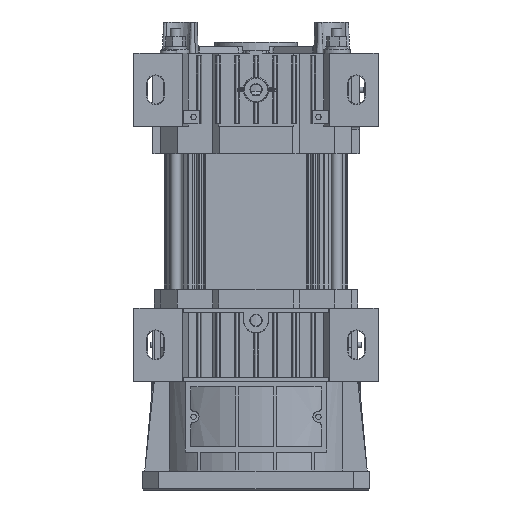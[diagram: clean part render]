
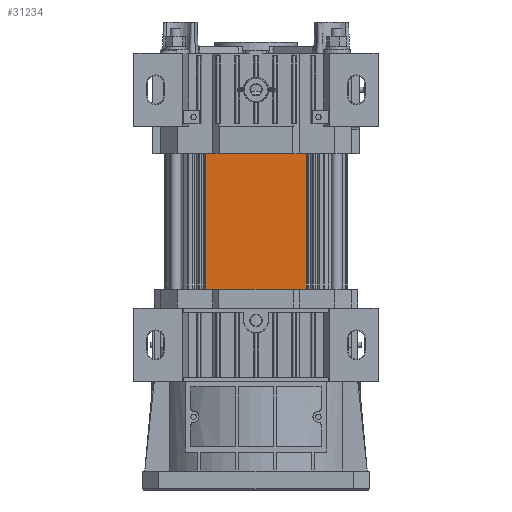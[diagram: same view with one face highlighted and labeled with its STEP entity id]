
A CAD part, front view. The second image highlights one B-rep face of the part: STEP entity #31234.
In plain terms, the highlighted planar face has unit normal (0, -1, 0).
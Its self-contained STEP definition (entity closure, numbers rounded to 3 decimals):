
#3448=LINE('',#53690,#6360);
#3684=LINE('',#54433,#6596);
#3685=LINE('',#54436,#6597);
#3686=LINE('',#54437,#6598);
#6360=VECTOR('',#42540,10.);
#6596=VECTOR('',#43294,10.);
#6597=VECTOR('',#43299,10.);
#6598=VECTOR('',#43300,10.);
#7603=PLANE('',#34358);
#9453=FACE_OUTER_BOUND('',#11312,.T.);
#11312=EDGE_LOOP('',(#28886,#28887,#28888,#28889));
#15380=VERTEX_POINT('',#53683);
#15383=VERTEX_POINT('',#53688);
#15630=VERTEX_POINT('',#54430);
#15631=VERTEX_POINT('',#54432);
#19771=EDGE_CURVE('',#15383,#15380,#3448,.T.);
#20142=EDGE_CURVE('',#15631,#15630,#3684,.T.);
#20144=EDGE_CURVE('',#15630,#15380,#3685,.T.);
#20145=EDGE_CURVE('',#15383,#15631,#3686,.T.);
#28886=ORIENTED_EDGE('',*,*,#20144,.T.);
#28887=ORIENTED_EDGE('',*,*,#19771,.F.);
#28888=ORIENTED_EDGE('',*,*,#20145,.T.);
#28889=ORIENTED_EDGE('',*,*,#20142,.T.);
#31234=ADVANCED_FACE('',(#9453),#7603,.T.);
#34358=AXIS2_PLACEMENT_3D('',#54435,#43297,#43298);
#42540=DIRECTION('',(0.,0.,1.));
#43294=DIRECTION('',(0.,0.,1.));
#43297=DIRECTION('center_axis',(0.,-1.,0.));
#43298=DIRECTION('ref_axis',(0.,0.,-1.));
#43299=DIRECTION('',(-1.,0.,0.));
#43300=DIRECTION('',(1.,0.,0.));
#53683=CARTESIAN_POINT('',(6506.45,-1976.3,110.));
#53688=CARTESIAN_POINT('',(6506.45,-1976.3,0.));
#53690=CARTESIAN_POINT('',(6506.45,-1976.3,0.));
#54430=CARTESIAN_POINT('',(6580.572,-1976.3,110.));
#54432=CARTESIAN_POINT('',(6580.572,-1976.3,0.));
#54433=CARTESIAN_POINT('',(6580.572,-1976.3,0.));
#54435=CARTESIAN_POINT('Origin',(6580.572,-1976.3,0.));
#54436=CARTESIAN_POINT('',(6506.45,-1976.3,110.));
#54437=CARTESIAN_POINT('',(6506.45,-1976.3,0.));
